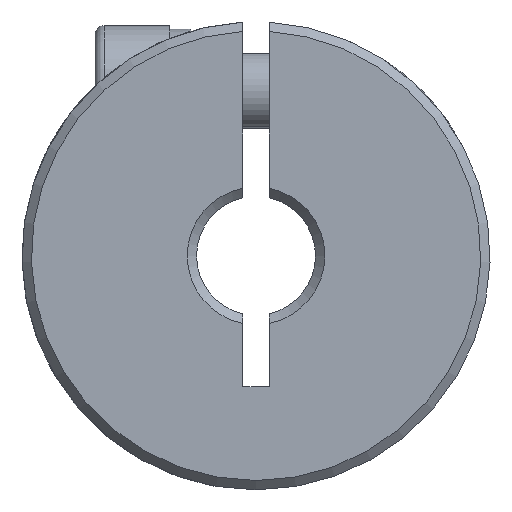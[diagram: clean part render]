
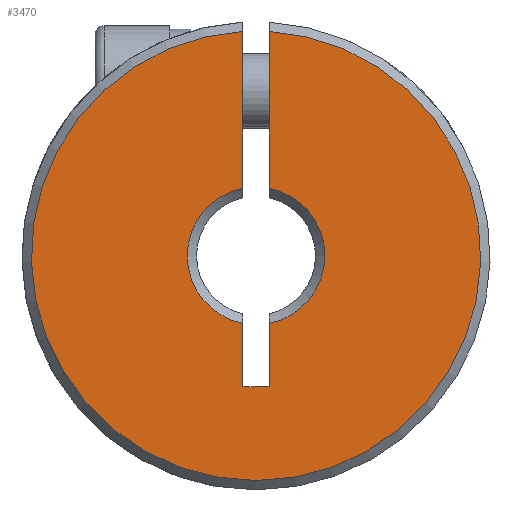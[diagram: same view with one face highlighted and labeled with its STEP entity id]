
A CAD part, front view. The second image highlights one B-rep face of the part: STEP entity #3470.
In plain terms, the highlighted planar face has unit normal (0, -1, 0).
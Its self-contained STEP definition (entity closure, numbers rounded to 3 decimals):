
#77 = VERTEX_POINT ( 'NONE', #2532 ) ;
#83 = LINE ( 'NONE', #3303, #2459 ) ;
#121 = CIRCLE ( 'NONE', #2450, 3.675 ) ;
#161 = VERTEX_POINT ( 'NONE', #2080 ) ;
#386 = VERTEX_POINT ( 'NONE', #3180 ) ;
#420 = CIRCLE ( 'NONE', #2427, 12. ) ;
#515 = AXIS2_PLACEMENT_3D ( 'NONE', #786, #2643, #2928 ) ;
#516 = PLANE ( 'NONE',  #515 ) ;
#528 = EDGE_CURVE ( 'NONE', #695, #790, #587, .T. ) ;
#534 = DIRECTION ( 'NONE',  ( 0., 0., -1. ) ) ;
#545 = LINE ( 'NONE', #2440, #3136 ) ;
#587 = LINE ( 'NONE', #1859, #1716 ) ;
#589 = LINE ( 'NONE', #1612, #3346 ) ;
#695 = VERTEX_POINT ( 'NONE', #3227 ) ;
#786 = CARTESIAN_POINT ( 'NONE',  ( 12.5, 0.25, -50. ) ) ;
#787 = DIRECTION ( 'NONE',  ( 0., 0., 1. ) ) ;
#790 = VERTEX_POINT ( 'NONE', #935 ) ;
#831 = DIRECTION ( 'NONE',  ( 0., 0., 1. ) ) ;
#850 = EDGE_CURVE ( 'NONE', #386, #1901, #83, .T. ) ;
#900 = CARTESIAN_POINT ( 'NONE',  ( 0., 0.25, 0. ) ) ;
#935 = CARTESIAN_POINT ( 'NONE',  ( -0.7, 0.25, -7. ) ) ;
#1015 = LINE ( 'NONE', #1327, #2927 ) ;
#1070 = DIRECTION ( 'NONE',  ( 1., 0., 0. ) ) ;
#1093 = EDGE_CURVE ( 'NONE', #695, #161, #3093, .T. ) ;
#1165 = EDGE_CURVE ( 'NONE', #2239, #77, #545, .T. ) ;
#1176 = EDGE_CURVE ( 'NONE', #1324, #161, #589, .T. ) ;
#1324 = VERTEX_POINT ( 'NONE', #3262 ) ;
#1327 = CARTESIAN_POINT ( 'NONE',  ( 0.7, 0.25, -7. ) ) ;
#1329 = ORIENTED_EDGE ( 'NONE', *, *, #1651, .T. ) ;
#1335 = DIRECTION ( 'NONE',  ( 0., 0., -1. ) ) ;
#1365 = ORIENTED_EDGE ( 'NONE', *, *, #2306, .F. ) ;
#1367 = CARTESIAN_POINT ( 'NONE',  ( 0., 0.25, 0. ) ) ;
#1557 = AXIS2_PLACEMENT_3D ( 'NONE', #2166, #3215, #2681 ) ;
#1612 = CARTESIAN_POINT ( 'NONE',  ( -0.7, 0.25, -7. ) ) ;
#1651 = EDGE_CURVE ( 'NONE', #1324, #77, #420, .T. ) ;
#1716 = VECTOR ( 'NONE', #1335, 1000. ) ;
#1790 = ORIENTED_EDGE ( 'NONE', *, *, #850, .F. ) ;
#1859 = CARTESIAN_POINT ( 'NONE',  ( -0.7, 0.25, -7. ) ) ;
#1901 = VERTEX_POINT ( 'NONE', #2193 ) ;
#1953 = ORIENTED_EDGE ( 'NONE', *, *, #2522, .T. ) ;
#1997 = ORIENTED_EDGE ( 'NONE', *, *, #1165, .F. ) ;
#2080 = CARTESIAN_POINT ( 'NONE',  ( -0.7, 0.25, 3.608 ) ) ;
#2166 = CARTESIAN_POINT ( 'NONE',  ( 0., 0.25, 0. ) ) ;
#2193 = CARTESIAN_POINT ( 'NONE',  ( 0.7, 0.25, -3.608 ) ) ;
#2217 = DIRECTION ( 'NONE',  ( 0., 0., 1. ) ) ;
#2227 = DIRECTION ( 'NONE',  ( 0., 1., 0. ) ) ;
#2239 = VERTEX_POINT ( 'NONE', #3109 ) ;
#2306 = EDGE_CURVE ( 'NONE', #790, #386, #1015, .T. ) ;
#2425 = DIRECTION ( 'NONE',  ( 0., -1., 0. ) ) ;
#2427 = AXIS2_PLACEMENT_3D ( 'NONE', #1367, #2425, #787 ) ;
#2440 = CARTESIAN_POINT ( 'NONE',  ( 0.7, 0.25, -7. ) ) ;
#2450 = AXIS2_PLACEMENT_3D ( 'NONE', #900, #2227, #2217 ) ;
#2456 = EDGE_LOOP ( 'NONE', ( #1997, #1953, #1790, #1365, #3338, #2865, #2945, #1329 ) ) ;
#2459 = VECTOR ( 'NONE', #2523, 1000. ) ;
#2507 = FACE_OUTER_BOUND ( 'NONE', #2456, .T. ) ;
#2522 = EDGE_CURVE ( 'NONE', #2239, #1901, #121, .T. ) ;
#2523 = DIRECTION ( 'NONE',  ( 0., 0., 1. ) ) ;
#2532 = CARTESIAN_POINT ( 'NONE',  ( 0.7, 0.25, 11.98 ) ) ;
#2643 = DIRECTION ( 'NONE',  ( 0., 1., 0. ) ) ;
#2681 = DIRECTION ( 'NONE',  ( 0., 0., 1. ) ) ;
#2865 = ORIENTED_EDGE ( 'NONE', *, *, #1093, .T. ) ;
#2927 = VECTOR ( 'NONE', #1070, 1000. ) ;
#2928 = DIRECTION ( 'NONE',  ( 0., 0., 1. ) ) ;
#2945 = ORIENTED_EDGE ( 'NONE', *, *, #1176, .F. ) ;
#3093 = CIRCLE ( 'NONE', #1557, 3.675 ) ;
#3109 = CARTESIAN_POINT ( 'NONE',  ( 0.7, 0.25, 3.608 ) ) ;
#3136 = VECTOR ( 'NONE', #831, 1000. ) ;
#3180 = CARTESIAN_POINT ( 'NONE',  ( 0.7, 0.25, -7. ) ) ;
#3215 = DIRECTION ( 'NONE',  ( 0., 1., 0. ) ) ;
#3227 = CARTESIAN_POINT ( 'NONE',  ( -0.7, 0.25, -3.608 ) ) ;
#3262 = CARTESIAN_POINT ( 'NONE',  ( -0.7, 0.25, 11.98 ) ) ;
#3303 = CARTESIAN_POINT ( 'NONE',  ( 0.7, 0.25, -7. ) ) ;
#3338 = ORIENTED_EDGE ( 'NONE', *, *, #528, .F. ) ;
#3346 = VECTOR ( 'NONE', #534, 1000. ) ;
#3470 = ADVANCED_FACE ( 'NONE', ( #2507 ), #516, .F. ) ;
